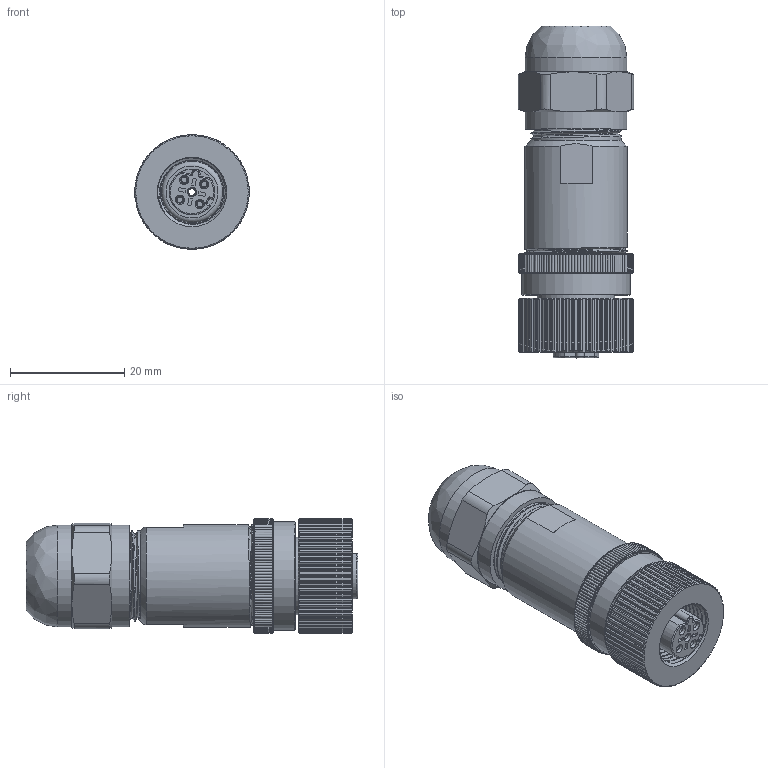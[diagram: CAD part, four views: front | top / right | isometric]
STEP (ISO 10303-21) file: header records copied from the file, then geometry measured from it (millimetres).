
FILE_DESCRIPTION(/* description */ (''),/* implementation_level */ '2;1');
FILE_NAME(/* name */ 'M12D-4FS.P-PG7_stp.stp',/* time_stamp */ '2024-09-04T13:55:20+08:00',/* author */ (''),/* organization */ (''),/* preprocessor_version */ 'ST-DEVELOPER v16.7',/* originating_system */ 'SIEMENS PLM Software NX 12.0',/* authorisation */ '');
FILE_SCHEMA (('AP203_CONFIGURATION_CONTROLLED_3D_DESIGN_OF_MECHANICAL_PARTS_AND_ASSEMBLIES_MIM_LF { 1 0 10303 403 2 1 2}'));
Length unit declared in the file: millimetre
Products named in the file (1): lyj79F4643E9xng
Bounding box: 20.14 x 58 x 20 mm (x, y, z)
Surface area: 12133.8 mm2
Topology: 8 solids, 9 shells, 1487 faces, 3444 edges, 2042 vertices
Faces by surface type: cylinder 564, cone 431, plane 422, torus 29, extrusion 25, bspline 16
Full cylindrical faces by diameter (mm): 1 x12, 1.2 x5, 1.3 x8, 1.4 x4, 1.6 x17, 2 x4, 6.2 x1, 8 x1, 8.3 x1, 8.6 x2, 9.2 x1, 9.5 x1, 10 x1, 10.2 x1, 10.7 x1, 11.1 x6, 11.3 x2, 12.7 x1, 13.2 x2, 13.6 x1, 13.8 x1, 13.9 x1, 14.4 x1, 14.8 x11, 15.8 x2, 16.4 x1, 16.7 x1, 17 x1, 17.2 x4, 17.4 x6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
Entity records: 57783 total; most frequent: CARTESIAN_POINT 26296, DIRECTION 6616, ORIENTED_EDGE 6350, EDGE_CURVE 3175, AXIS2_PLACEMENT_3D 2748, VERTEX_POINT 1916, EDGE_LOOP 1663, ADVANCED_FACE 1459
